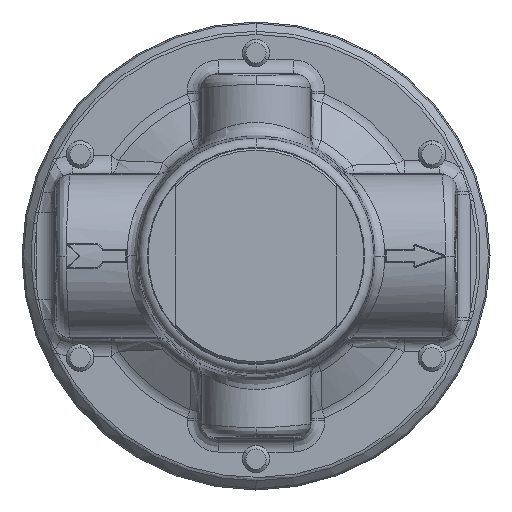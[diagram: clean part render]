
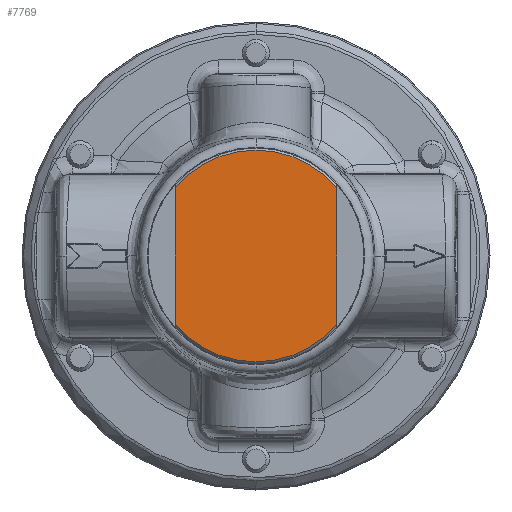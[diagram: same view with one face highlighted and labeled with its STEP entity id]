
A CAD part, front view. The second image highlights one B-rep face of the part: STEP entity #7769.
In plain terms, the highlighted planar face has unit normal (0, -1, 0).
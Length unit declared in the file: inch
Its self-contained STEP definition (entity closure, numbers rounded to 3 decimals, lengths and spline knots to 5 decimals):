
#4006 = CARTESIAN_POINT ( 'NONE',  ( -0.55875, -1.906, -0.47366 ) ) ;
#4011 = CARTESIAN_POINT ( 'NONE',  ( -0.55875, -1.906, 0.47366 ) ) ;
#4018 = CARTESIAN_POINT ( 'NONE',  ( 0.55875, -1.906, -0.47366 ) ) ;
#4019 = CARTESIAN_POINT ( 'NONE',  ( 0.55875, -1.906, 0.47366 ) ) ;
#4553 = ORIENTED_EDGE ( 'NONE', *, *, #16148, .F. ) ;
#4554 = ORIENTED_EDGE ( 'NONE', *, *, #16149, .T. ) ;
#4555 = ORIENTED_EDGE ( 'NONE', *, *, #16150, .T. ) ;
#4556 = ORIENTED_EDGE ( 'NONE', *, *, #16151, .T. ) ;
#7769 = ADVANCED_FACE ( 'NONE', ( #8576 ), #8577, .T. ) ;
#8574 = CARTESIAN_POINT ( 'NONE',  ( 0., -1.906, 0. ) ) ;
#8576 = FACE_OUTER_BOUND ( 'NONE', #22229, .T. ) ;
#8577 = PLANE ( 'NONE',  #16491 ) ;
#8578 = DIRECTION ( 'NONE',  ( 0., -1., 0. ) ) ;
#8579 = DIRECTION ( 'NONE',  ( 1., 0., 0. ) ) ;
#13422 = CIRCLE ( 'NONE', #13460, 0.7325 ) ;
#13456 = VECTOR ( 'NONE', #19723, 39.37008 ) ;
#13458 = VECTOR ( 'NONE', #19728, 39.37008 ) ;
#13460 = AXIS2_PLACEMENT_3D ( 'NONE', #19725, #19726, #19727 ) ;
#13461 = CIRCLE ( 'NONE', #13463, 0.7325 ) ;
#13463 = AXIS2_PLACEMENT_3D ( 'NONE', #19729, #19730, #19731 ) ;
#16148 = EDGE_CURVE ( 'NONE', #19074, #19079, #19714, .T. ) ;
#16149 = EDGE_CURVE ( 'NONE', #19074, #19086, #13422, .T. ) ;
#16150 = EDGE_CURVE ( 'NONE', #19086, #19087, #19724, .T. ) ;
#16151 = EDGE_CURVE ( 'NONE', #19087, #19079, #13461, .T. ) ;
#16491 = AXIS2_PLACEMENT_3D ( 'NONE', #8574, #8578, #8579 ) ;
#19074 = VERTEX_POINT ( 'NONE', #4006 ) ;
#19079 = VERTEX_POINT ( 'NONE', #4011 ) ;
#19086 = VERTEX_POINT ( 'NONE', #4018 ) ;
#19087 = VERTEX_POINT ( 'NONE', #4019 ) ;
#19714 = LINE ( 'NONE', #19715, #13456 ) ;
#19715 = CARTESIAN_POINT ( 'NONE',  ( -0.55875, -1.906, 0. ) ) ;
#19722 = CARTESIAN_POINT ( 'NONE',  ( 0.55875, -1.906, 0. ) ) ;
#19723 = DIRECTION ( 'NONE',  ( 0., 0., 1. ) ) ;
#19724 = LINE ( 'NONE', #19722, #13458 ) ;
#19725 = CARTESIAN_POINT ( 'NONE',  ( 0., -1.906, 0. ) ) ;
#19726 = DIRECTION ( 'NONE',  ( 0., -1., 0. ) ) ;
#19727 = DIRECTION ( 'NONE',  ( 1., 0., 0. ) ) ;
#19728 = DIRECTION ( 'NONE',  ( 0., 0., 1. ) ) ;
#19729 = CARTESIAN_POINT ( 'NONE',  ( 0., -1.906, 0. ) ) ;
#19730 = DIRECTION ( 'NONE',  ( 0., -1., 0. ) ) ;
#19731 = DIRECTION ( 'NONE',  ( 1., 0., 0. ) ) ;
#22229 = EDGE_LOOP ( 'NONE', ( #4553, #4554, #4555, #4556 ) ) ;
